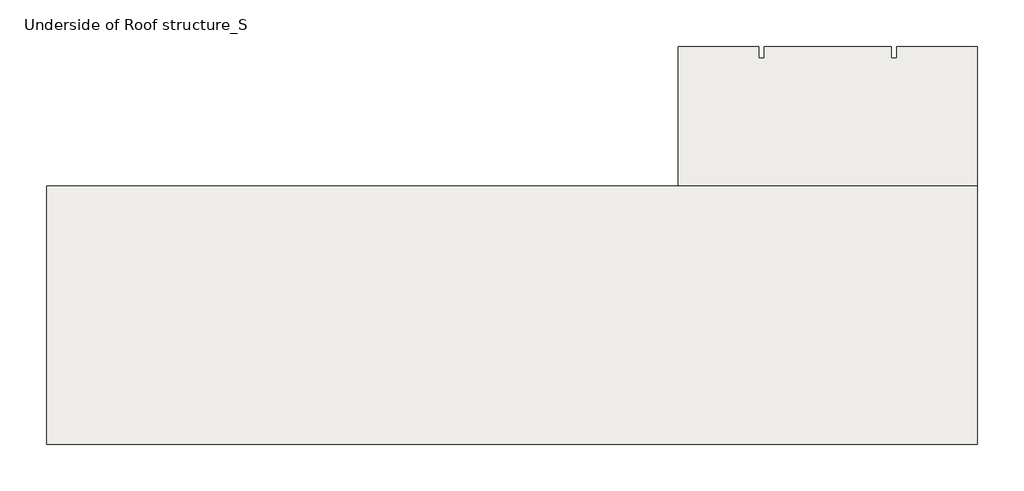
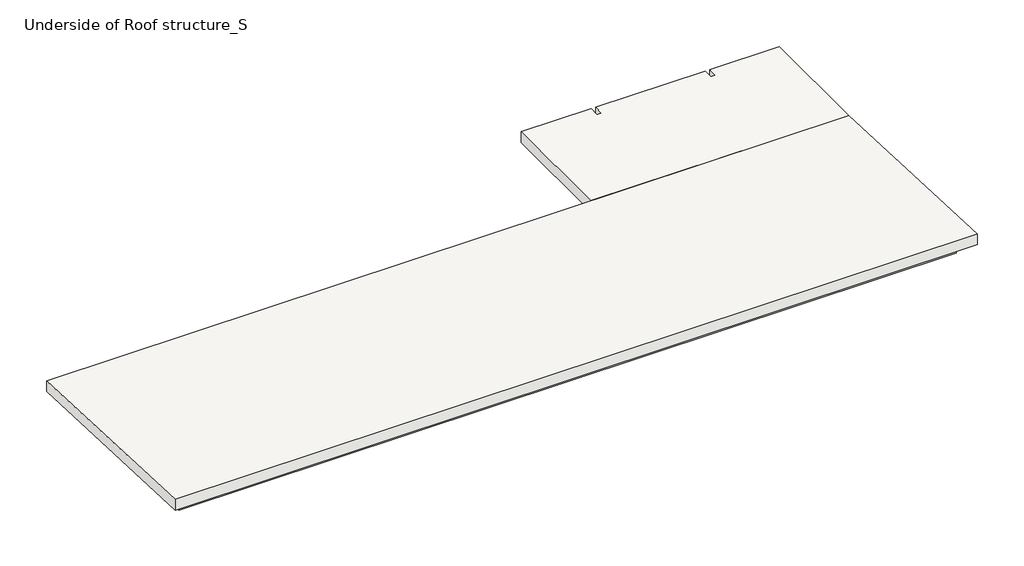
# One storey: 2 slabs, 1 beam.
"""IFC4 building model written with IfcOpenShell, lengths in millimetres."""

import ifcopenshell
import ifcopenshell.guid

model = None  # the IFC model being written
_history = None  # IfcOwnerHistory: only IFC2X3 demands one
_inside = {}  # id of a spatial element -> (the spatial element, [elements in it])
_under = {}  # id of a project, library or spatial element -> (it, [spatial elements below it])
_declared = {}  # id of a project -> (the project, [libraries it declares])
_typed = {}  # id of a type object -> (the type object, [elements of that type])
_made_of = {}  # id of a material, layer set ... -> (it, [elements and type objects made of it])


def new_model(schema):
    """Start an empty IFC model of exactly this schema.

    Asked for "IFC4X3", IfcOpenShell would pick the latest addendum, in which some entities
    have other attributes; the version numbers below select the first issue.
    IFC2X3 requires an IfcOwnerHistory on every rooted entity: one is made here for all.
    """
    global model, _history
    if schema == "IFC4X3":
        model = ifcopenshell.file(schema_version=(4, 3, 0, 0))
    else:
        model = ifcopenshell.file(schema=schema)
    _inside.clear()
    _under.clear()
    _declared.clear()
    _typed.clear()
    _made_of.clear()
    _history = None
    if model.schema == "IFC2X3":
        org = make("IfcOrganization", Name="unknown")
        user = make(
            "IfcPersonAndOrganization",
            ThePerson=make("IfcPerson", FamilyName="unknown"),
            TheOrganization=org,
        )
        app = make(
            "IfcApplication",
            ApplicationDeveloper=org,
            Version="unknown",
            ApplicationFullName="unknown",
            ApplicationIdentifier="unknown",
        )
        _history = make(
            "IfcOwnerHistory",
            OwningUser=user,
            OwningApplication=app,
            ChangeAction="ADDED",
            CreationDate=0,
        )
    return model


def make(cls, **values):
    """One entity of the class cls with the attributes given. An attribute that is None is left unset."""
    return model.create_entity(
        cls, **{name: value for name, value in values.items() if value is not None}
    )


def rooted(cls, **values):
    """An entity with a GlobalId (a new one), such as an element, a storey or a relation."""
    return make(cls, GlobalId=ifcopenshell.guid.new(), OwnerHistory=_history, **values)


def si_unit(unit_type, name, prefix=None):
    """IfcSIUnit, for example si_unit("LENGTHUNIT", "METRE", prefix="MILLI")."""
    return make("IfcSIUnit", UnitType=unit_type, Prefix=prefix, Name=name)


def assignment(units):
    """IfcUnitAssignment: the units of a project."""
    return None if units is None else make("IfcUnitAssignment", Units=units)


def point(xyz):
    """IfcCartesianPoint."""
    return None if xyz is None else make("IfcCartesianPoint", Coordinates=xyz)


def direction(xyz):
    """IfcDirection."""
    return None if xyz is None else make("IfcDirection", DirectionRatios=xyz)


def frame(location, z_axis=None, x_axis=None):
    """IfcAxis2Placement3D, a coordinate frame: its origin and axes. An axis left out is left unset."""
    return make(
        "IfcAxis2Placement3D",
        Location=point(location),
        Axis=direction(z_axis),
        RefDirection=direction(x_axis),
    )


def origin():
    """The frame at (0, 0, 0) with its axes left unset."""
    return frame((0.0, 0.0, 0.0))


def place(relative_to, where):
    """IfcLocalPlacement: puts the frame where relative to a parent placement (None: the world)."""
    return make(
        "IfcLocalPlacement", PlacementRelTo=relative_to, RelativePlacement=where
    )


def context(
    kind, dimensions, precision=None, world=None, true_north=None, identifier=None
):
    """IfcGeometricRepresentationContext, for example the 3D "Model" context."""
    return make(
        "IfcGeometricRepresentationContext",
        ContextIdentifier=identifier,
        ContextType=kind,
        CoordinateSpaceDimension=dimensions,
        Precision=precision,
        WorldCoordinateSystem=world,
        TrueNorth=true_north,
    )


def project(units=None, contexts=None):
    """IfcProject with its units and contexts."""
    return rooted(
        "IfcProject",
        Name="project",
        RepresentationContexts=contexts,
        UnitsInContext=assignment(units),
    )


def spatial(cls, under=None, at=None, **own):
    """A site, building, storey or space (cls), placed at a placement, below another one or the project."""
    s = rooted(cls, ObjectPlacement=at, **own)
    if under is not None:
        _under.setdefault(under.id(), (under, []))[1].append(s)
    return s


def polyline(points):
    """IfcPolyline through the points."""
    return make("IfcPolyline", Points=[point(p) for p in points])


def outline(outer, holes=None, kind="AREA"):
    """IfcArbitraryClosedProfileDef: a profile drawn as a closed curve; with holes, ...WithVoids."""
    if holes is None:
        return make("IfcArbitraryClosedProfileDef", ProfileType=kind, OuterCurve=outer)
    return make(
        "IfcArbitraryProfileDefWithVoids",
        ProfileType=kind,
        OuterCurve=outer,
        InnerCurves=holes,
    )


def extrude(swept, where, along, depth):
    """IfcExtrudedAreaSolid: the profile swept, set in the frame where, extruded along a direction by depth."""
    return make(
        "IfcExtrudedAreaSolid",
        SweptArea=swept,
        Position=where,
        ExtrudedDirection=direction(along),
        Depth=depth,
    )


def shape(context_of_items, identifier, shape_type, items):
    """IfcShapeRepresentation: the items that make up one representation, for example the "Body"."""
    return make(
        "IfcShapeRepresentation",
        ContextOfItems=context_of_items,
        RepresentationIdentifier=identifier,
        RepresentationType=shape_type,
        Items=items,
    )


def made_of(thing, what):
    """Note that an element or type object is made of a material, layer set ...; save() writes the relation."""
    if what is not None:
        _made_of.setdefault(what.id(), (what, []))[1].append(thing)
    return thing


def element(
    cls,
    number,
    at=None,
    inside=None,
    cuts=None,
    type_object=None,
    material=None,
    context=None,
    identifier="Body",
    shape_type=None,
    held_by="IfcProductDefinitionShape",
    body=None,
    shapes=None,
    **own,
):
    """One element of the class cls, such as IfcWall. Its Tag is "e" and its number.

    at: its placement. inside: the storey or other place that contains it. cuts: it is an
    opening in that element (IfcRelVoidsElement). A single representation is given by context,
    identifier, shape_type and body (its items); several are given by shapes. held_by: the class
    of the entity that holds the representations. save() writes the other relations.
    """
    e = rooted(cls, Tag="e%d" % number, ObjectPlacement=at, **own)
    if body is not None:
        shapes = [shape(context, identifier, shape_type, body)]
    if shapes is not None:
        e.Representation = make(held_by, Representations=shapes)
    if inside is not None:
        _inside.setdefault(inside.id(), (inside, []))[1].append(e)
    if cuts is not None:
        rooted(
            "IfcRelVoidsElement", RelatingBuildingElement=cuts, RelatedOpeningElement=e
        )
    if type_object is not None:
        _typed.setdefault(type_object.id(), (type_object, []))[1].append(e)
    return made_of(e, material)


def aggregate(whole, parts):
    """IfcRelAggregates: a whole, such as a stair, and the parts it consists of."""
    return rooted("IfcRelAggregates", RelatingObject=whole, RelatedObjects=parts)


def save(model, path):
    """Write the relations noted so far, then the file.

    IfcRelAggregates (storeys below a building ...), IfcRelContainedInSpatialStructure (elements
    in a storey), IfcRelDefinesByType, IfcRelAssociatesMaterial and IfcRelDeclares: one each for
    every whole, place, type object, material and project.
    """
    for whole, parts in _under.values():
        aggregate(whole, parts)
    for where, things in _inside.values():
        rooted(
            "IfcRelContainedInSpatialStructure",
            RelatedElements=things,
            RelatingStructure=where,
        )
    for kind, things in _typed.values():
        rooted("IfcRelDefinesByType", RelatedObjects=things, RelatingType=kind)
    for what, things in _made_of.values():
        rooted("IfcRelAssociatesMaterial", RelatedObjects=things, RelatingMaterial=what)
    for by, libraries in _declared.values():
        rooted("IfcRelDeclares", RelatingContext=by, RelatedDefinitions=libraries)
    model.write(path)


model = new_model("IFC4")

# Units and contexts
model_context = context("Model", 3, world=origin())
ifc_project = project(units=[si_unit("LENGTHUNIT", "METRE", prefix="MILLI")], contexts=[model_context])

# Site, building, storey
site = spatial("IfcSite", under=ifc_project)
building = spatial("IfcBuilding", under=site)
storey = spatial("IfcBuildingStorey", under=building, Name="Underside of Roof structure_S", Elevation=34036.0)

# Beam
placement = place(None, origin())
element("IfcBeam", 1, ObjectType="Concrete-Rectangular Beam : 12 x 20", at=placement, inside=storey, context=model_context, shape_type="SweptSolid", body=[
    extrude(outline(polyline([(-18541.7497924, 34036.0), (-18846.5497924, 34036.0), (-18846.5497924, 34361.7863813), (-18541.7497924, 34348.6913519), (-18541.7497924, 34036.0)])), frame((2832.5462086, 0.0, 0.0), z_axis=(1.0, 0.0, 0.0), x_axis=(0.0, 1.0, 0.0)), (0.0, 0.0, 1.0), 17487.9),
])

# Slabs
element("IfcSlab", 2, ObjectType="Ext_structure", at=placement, inside=storey, context=model_context, shape_type="SweptSolid", body=[
    extrude(outline(polyline([(-14214.1427817, 34162.7656923), (-19227.8856773, 34378.1695986), (-19227.8856773, 34632.4039062), (-14214.1427817, 34417.0), (-14214.1427817, 34162.7656923)])), frame((2527.7462086, 0.0, 0.0), z_axis=(1.0, 0.0, 0.0), x_axis=(0.0, 1.0, 0.0)), (0.0, 0.0, 1.0), 18047.2083307),
])
element("IfcSlab", 3, ObjectType="Ext_structure", at=placement, inside=storey, context=model_context, shape_type="SweptSolid", body=[
    extrude(outline(polyline([(14771.0545393, -14214.1427817), (14771.0545393, -11508.3804995), (16339.5045393, -11508.3804995), (16339.5045393, -11736.9804995), (16441.1045393, -11736.9804995), (16441.1045393, -11508.3804995), (18904.9045393, -11508.3804995), (18904.9045393, -11736.9804995), (19006.5045393, -11736.9804995), (19006.5045393, -11508.3804995), (20574.9545393, -11508.3804995), (20574.9545393, -14214.1427817), (14771.0545393, -14214.1427817)])), frame((0.0, 0.0, 34162.8015625), z_axis=(0.0, 0.0, 1.0), x_axis=(1.0, 0.0, 0.0)), (0.0, 0.0, 1.0), 254.0),
])

save(model, "model.ifc")
